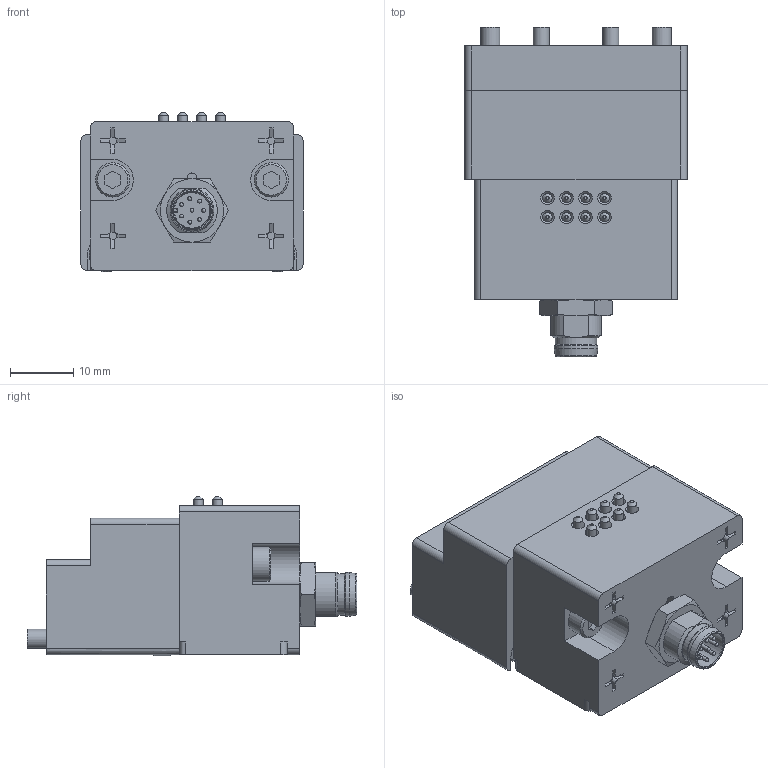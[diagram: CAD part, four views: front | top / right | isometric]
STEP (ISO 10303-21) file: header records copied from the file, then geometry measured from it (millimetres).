
FILE_DESCRIPTION(('STEP AP214'),'1');
FILE_NAME('KHG-12HS-D28C_ver1.stp','2026-07-24T00:48:53',(' '),(' '),'Spatial InterOp 3D',' ',' ');
FILE_SCHEMA(('AUTOMOTIVE_DESIGN { 1 0 10303 214 1 1 1 1 }'));
Length unit declared in the file: millimetre
Products named in the file (1): KHG-12HS-D28C_ver1
Bounding box: 35 x 52 x 25.2 mm (x, y, z)
Volume: 28223.7 mm3; surface area: 7986.3 mm2
Topology: 1 solids, 1 shells, 413 faces, 1055 edges, 660 vertices
Faces by surface type: plane 279, revolution 134
Entity records: 20213 total; most frequent: CARTESIAN_POINT 2472, ORIENTED_EDGE 1924, DIRECTION 1836, STYLED_ITEM 1371, PRESENTATION_STYLE_ASSIGNMENT 1371, COLOUR_RGB 1371, EDGE_CURVE 962, CURVE_STYLE 958
